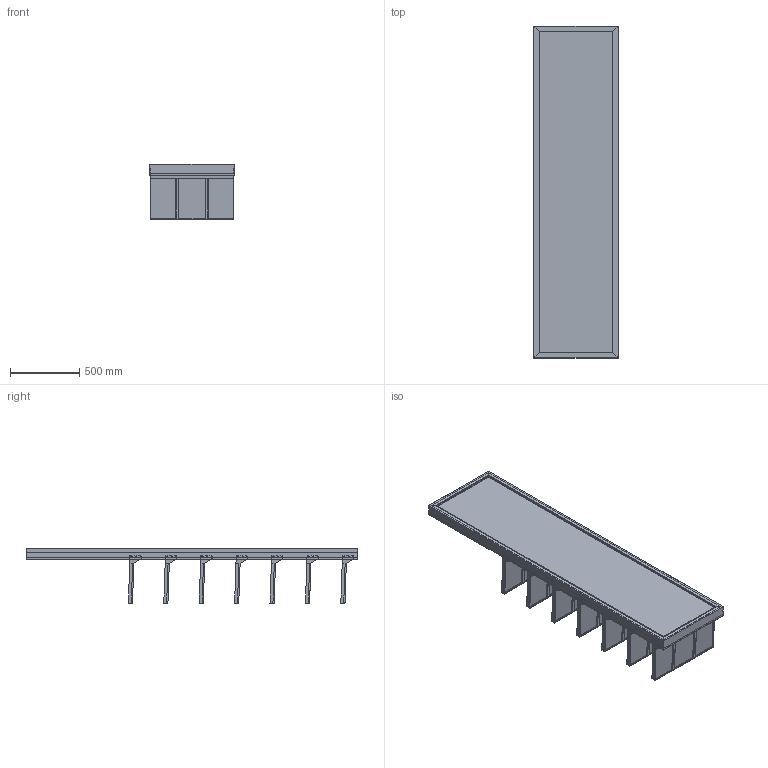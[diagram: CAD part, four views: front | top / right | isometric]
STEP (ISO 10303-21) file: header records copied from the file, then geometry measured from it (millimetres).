
FILE_DESCRIPTION (( 'STEP AP203' ), '1' );
FILE_NAME ('Slotted UpBright® Golf Ball Merchandising Wall.STEP', '2026-03-31T10:48:12', ( '' ), ( '' ), 'SwSTEP 2.0', 'SolidWorks 2025', '' );
FILE_SCHEMA (( 'CONFIG_CONTROL_DESIGN' ));
Length unit declared in the file: millimetre
Products named in the file (11): Slotted UpBright® Golf Ball Merchandising Wall; 367-01-04_默认; 367-01-08_默认; 367-01-03_默认; 367-01-01_默认; 367-01-06_默认; 0001-31-GA01 - 610W Slotted Upright; 367-01-07_默认; 367-01-05_默认; 367-01-02_默认; 367-01-GA01_默认
Assembly tree (21 placements, depth 3):
  Slotted UpBright® Golf Ball Merchandising Wall
    0001-31-GA01 - 610W Slotted Upright
    367-01-GA01_默认  x7
      367-01-01_默认
      367-01-02_默认
      367-01-03_默认
      367-01-04_默认
      367-01-05_默认
      367-01-06_默认
      367-01-07_默认
      367-01-08_默认
Bounding box: 609.75 x 2400 x 403.66 mm (x, y, z)
Volume: 9333432.4 mm3; surface area: 13241493.3 mm2
Topology: 97 solids, 97 shells, 2000 faces, 5360 edges, 3480 vertices
Faces by surface type: plane 1518, cylinder 454, bspline 28
Entity records: 20742 total; most frequent: CARTESIAN_POINT 3965, ORIENTED_EDGE 3454, DIRECTION 2817, EDGE_CURVE 1727, LINE 1557, VECTOR 1557, VERTEX_POINT 1138, AXIS2_PLACEMENT_3D 630
